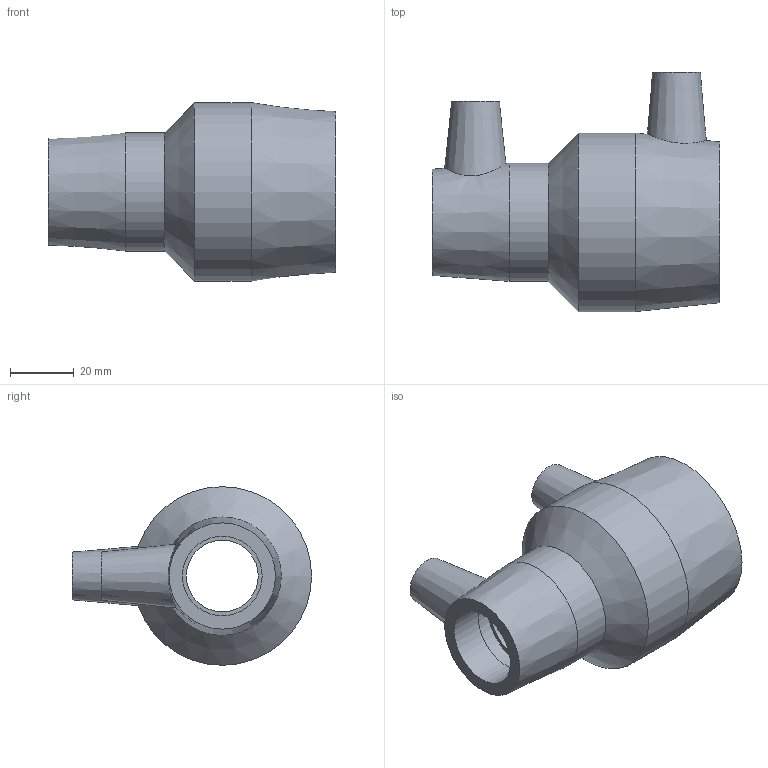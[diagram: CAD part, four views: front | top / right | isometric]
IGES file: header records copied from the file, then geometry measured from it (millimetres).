
Global section: file name: 491104040025.ipt; native system: Autodesk Inventor 2015; preprocessor: unknown; author: KIM; date: 20171106.093717; units: millimetre
Bounding box: 90 x 75 x 56 mm (x, y, z)
Volume: 83363.1 mm3; surface area: 28162.1 mm2
Topology: 1 solids, 1 shells, 31 faces, 72 edges, 51 vertices
Faces by surface type: plane 12, revolution 10, cone 5, cylinder 4
Full cylindrical faces by diameter (mm): 4 x2, 37 x1, 56 x1
